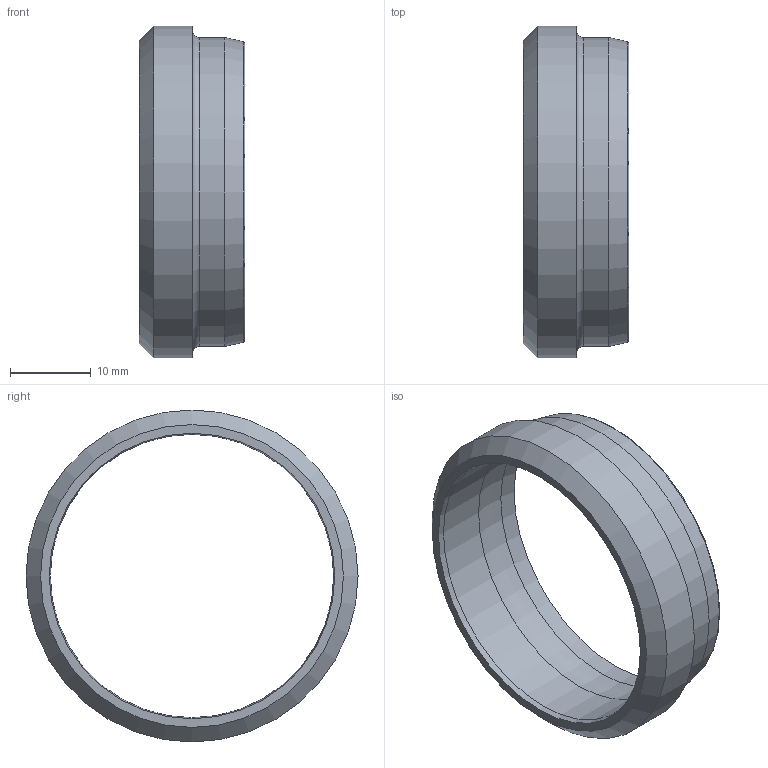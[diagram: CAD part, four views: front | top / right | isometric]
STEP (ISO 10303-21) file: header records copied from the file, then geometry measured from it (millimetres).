
FILE_DESCRIPTION( ( 'Unknown' ), '1' );
FILE_NAME( 'C:/Users/p.nanko/Desktop/3D SR/D35L.stp', 'Unknown', ( 'Peter Nanko' ), ( 'Armaturen Arndt' ), 'PSStep 14.0', 'Solid Edge ST4', ' ' );
FILE_SCHEMA( ( 'AUTOMOTIVE_DESIGN { 1 0 10303 214 1 1 1 1 }' ) );
Length unit declared in the file: millimetre
Products named in the file (1): 1001ESTERNO#0
Bounding box: 13.07 x 41 x 41 mm (x, y, z)
Volume: 3100 mm3; surface area: 3568.9 mm2
Topology: 1 solids, 1 shells, 15 faces, 30 edges, 19 vertices
Faces by surface type: torus 4, plane 4, cone 4, cylinder 3
Full cylindrical faces by diameter (mm): 35 x1, 38.15 x1, 41 x1
Entity records: 444 total; most frequent: DIRECTION 62, CARTESIAN_POINT 46, AXIS2_PLACEMENT_3D 31, EDGE_LOOP 30, ORIENTED_EDGE 30, FACE_OUTER_BOUND 22, STYLED_ITEM 15, PRESENTATION_STYLE_ASSIGNMENT 15
